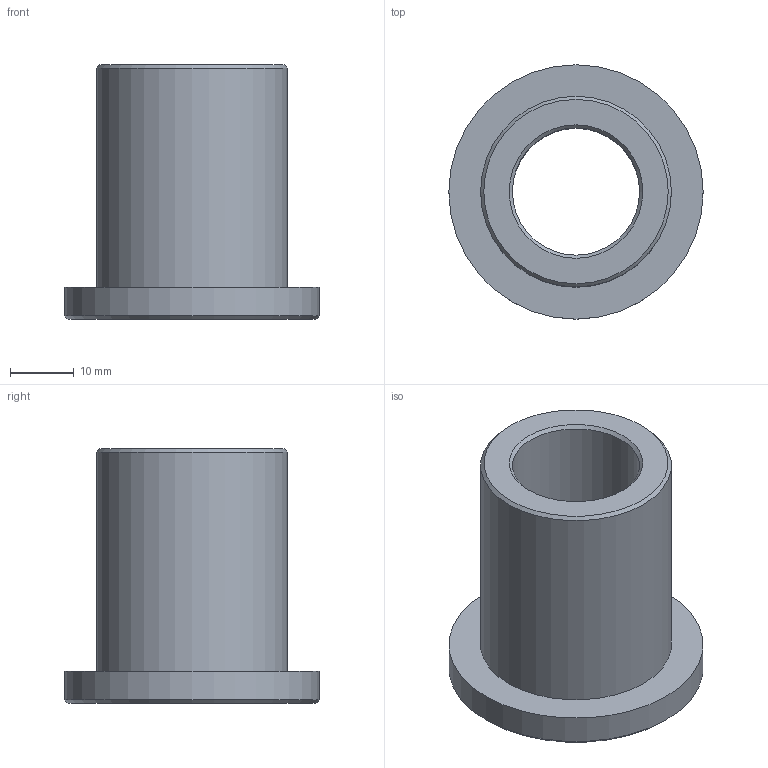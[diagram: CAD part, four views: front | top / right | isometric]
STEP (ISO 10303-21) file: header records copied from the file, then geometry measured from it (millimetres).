
FILE_DESCRIPTION(('Open CASCADE Model'),'2;1');
FILE_NAME('Open CASCADE Shape Model','2026-10-30T15:20:01',('Author'),( 'Open CASCADE'),'Open CASCADE STEP processor 7.9','Open CASCADE 7.9' ,'Unknown');
FILE_SCHEMA(('AUTOMOTIVE_DESIGN { 1 0 10303 214 1 1 1 1 }'));
Length unit declared in the file: millimetre
Products named in the file (2): 6038eb70-d475-11f1-9491-af74f1bf7766; flanged_bushing
Assembly tree (1 placements, depth 2):
  6038eb70-d475-11f1-9491-af74f1bf7766
    flanged_bushing
Bounding box: 40 x 40 x 40 mm (x, y, z)
Volume: 18413.7 mm3; surface area: 8224 mm2
Topology: 1 solids, 1 shells, 10 faces, 17 edges, 10 vertices
Faces by surface type: cone 4, cylinder 3, plane 3
Full cylindrical faces by diameter (mm): 20 x1, 30 x1, 40 x1
Entity records: 493 total; most frequent: CARTESIAN_POINT 81, DIRECTION 77, ORIENTED_EDGE 34, PCURVE 34, DEFINITIONAL_REPRESENTATION 34, LINE 27, VECTOR 27, AXIS2_PLACEMENT_3D 22
